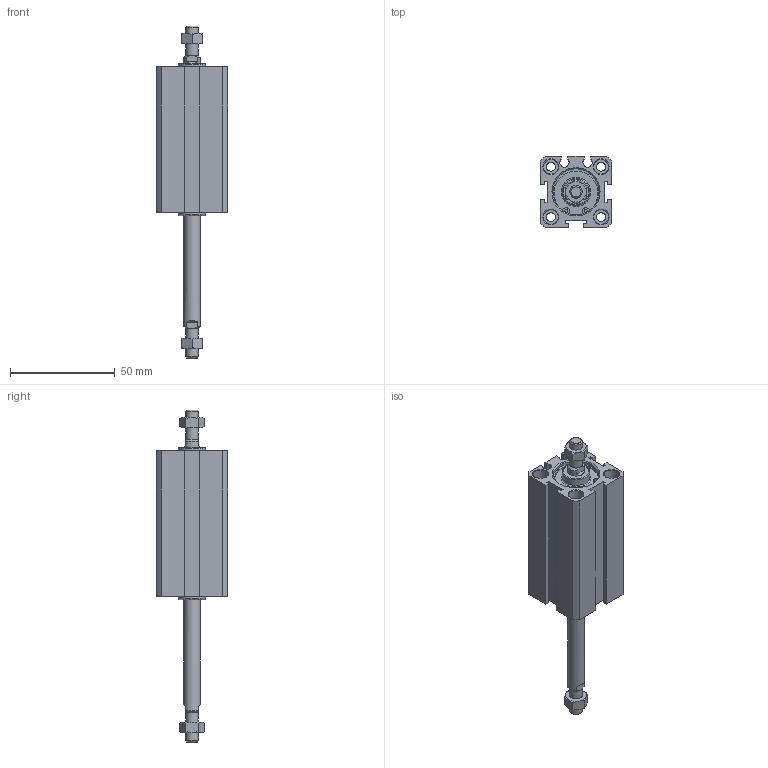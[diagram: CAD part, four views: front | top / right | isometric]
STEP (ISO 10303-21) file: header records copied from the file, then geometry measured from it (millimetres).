
FILE_DESCRIPTION((''),'2;1');
FILE_NAME('I:\3D電子目錄\氣缸\JDD\JDD-B\JDD20-B\JDD20x50-B.stp','2007-02-09T10:03:34',('662F206'),(''),'Autodesk Inventor 10','Autodesk Inventor 10','');
FILE_SCHEMA(('AUTOMOTIVE_DESIGN { 1 0 10303 214 1 1 1 1 }'));
Length unit declared in the file: millimetre
Products named in the file (3): JDD20-B; R 形環 23
Assembly tree (3 placements, depth 2):
  JDD20-B
    JDD20-B
    R 形環 23  x2
Bounding box: 34 x 34 x 158.5 mm (x, y, z)
Volume: 69519.5 mm3; surface area: 23314.1 mm2
Topology: 3 solids, 3 shells, 179 faces, 407 edges, 260 vertices
Faces by surface type: plane 84, cylinder 51, cone 32, bspline 10, torus 2
Full cylindrical faces by diameter (mm): 1.5 x6, 4.3 x4, 6 x4, 7 x8, 8 x1, 13 x2, 22 x4, 23.2 x2
Entity records: 4509 total; most frequent: CARTESIAN_POINT 953, DIRECTION 732, ORIENTED_EDGE 638, EDGE_CURVE 319, AXIS2_PLACEMENT_3D 294, EDGE_LOOP 256, VERTEX_POINT 233, FACE_OUTER_BOUND 167
